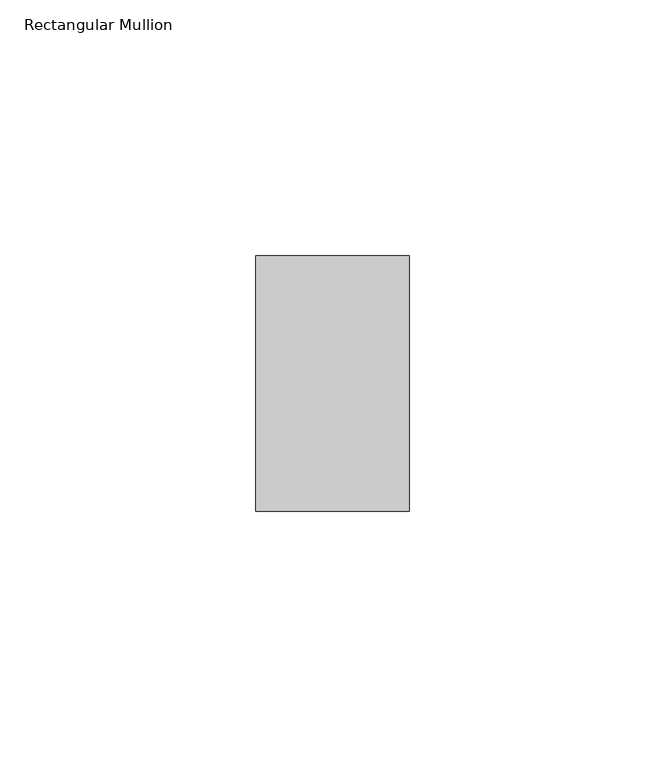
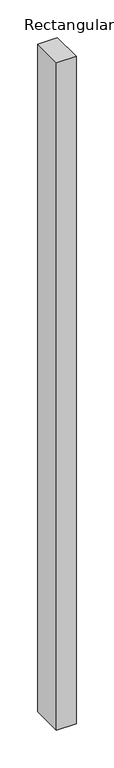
"""IFC4 building model written with IfcOpenShell, lengths in millimetres: member geometry, Rectangular Mullion : ARQ_TV_MULL_50x30mm."""

from ifc_helpers import new_model, si_unit, frame, origin, place, context, project, spatial, polyline, outline, extrude, source, transform, mapped, element, save


def rectangular_mullion_d0a98ee2(model_context):
    return source(origin(), model_context, "Body", "SweptSolid", [
        extrude(outline(polyline([(15.0, 25.0), (15.0, -25.0), (-15.0, -25.0), (-15.0, 25.0), (15.0, 25.0)])), frame((0.0, 0.0, -1082.6872549), z_axis=(0.0, 0.0, 1.0), x_axis=(1.0, 0.0, 0.0)), (0.0, 0.0, 1.0), 1082.6872549),
    ])


if __name__ == "__main__":
    model = new_model("IFC4")
    model_context = context("Model", 3, world=origin())
    ifc_project = project(units=[si_unit("LENGTHUNIT", "METRE", prefix="MILLI")], contexts=[model_context])
    site = spatial("IfcSite", under=ifc_project)
    building = spatial("IfcBuilding", under=site)
    placement = place(None, origin())
    rectangular_mullion_shape = rectangular_mullion_d0a98ee2(model_context)
    element("IfcMember", 1, ObjectType="Rectangular Mullion : ARQ_TV_MULL_50x30mm", at=placement, inside=building, context=model_context, shape_type="MappedRepresentation", body=[
        mapped(rectangular_mullion_shape, transform((0.0, 0.0, 0.0), x_axis=(1.0, 0.0, 0.0), y_axis=(0.0, 1.0, 0.0), z_axis=(0.0, 0.0, 1.0))),
    ])
    save(model, "model.ifc")
